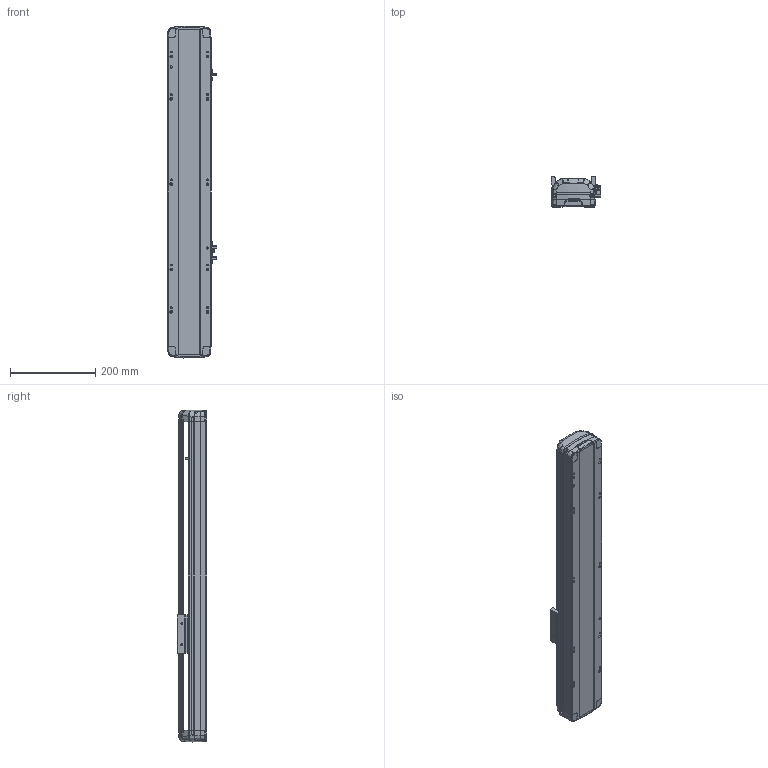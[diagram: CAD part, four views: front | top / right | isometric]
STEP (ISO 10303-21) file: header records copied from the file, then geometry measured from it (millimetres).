
FILE_DESCRIPTION (( 'STEP AP214' ), '1' );
FILE_NAME ('RTH10-XX-400-B-M10-C4.STEP', '2025-10-25T05:12:02', ( 'Microsoft' ), ( 'Microsoft' ), 'SwSTEP 2.0', 'SolidWorks 2018', '' );
FILE_SCHEMA (( 'AUTOMOTIVE_DESIGN' ));
Length unit declared in the file: millimetre
Products named in the file (7): RTH10-XX-400-B-M10-C4; N_OMRON EE-SX672 传感器^RTH10-XX-XX-B-M10-C4; N_RTH12-GY-001P^RTH10-XX-XX-B-M10-C4; N_RTH12-B-007P-奻裔^RTH10-XX-XX-B-M10-C4; N_RTH12-GY-004-賑釱^RTH10-XX-XX-B-M10-C4; N_RTH13-L-012覜茼え俋离^RTH10-XX-XX-B-M10-C4; N_RTH12-B-011P-臏倰第菁釱^RTH10-XX-XX-B-M10-C4
Assembly tree (9 placements, depth 2):
  RTH10-XX-400-B-M10-C4
    N_RTH12-B-011P-臏倰第菁釱^RTH10-XX-XX-B-M10-C4
    N_RTH13-L-012覜茼え俋离^RTH10-XX-XX-B-M10-C4
    N_OMRON EE-SX672 传感器^RTH10-XX-XX-B-M10-C4  x3
    N_RTH12-B-007P-奻裔^RTH10-XX-XX-B-M10-C4
    N_RTH12-GY-004-賑釱^RTH10-XX-XX-B-M10-C4
    N_RTH12-GY-001P^RTH10-XX-XX-B-M10-C4  x2
Bounding box: 116.5 x 70 x 779.29 mm (x, y, z)
Volume: 2952041.2 mm3; surface area: 497139 mm2
Topology: 7 solids, 11 shells, 2180 faces, 6100 edges, 3992 vertices
Faces by surface type: plane 1049, bspline 712, cylinder 399, cone 16, torus 4
Entity records: 48704 total; most frequent: CARTESIAN_POINT 21358, ORIENTED_EDGE 6328, DIRECTION 4408, EDGE_CURVE 3170, VERTEX_POINT 2079, VECTOR 1642, LINE 1642, AXIS2_PLACEMENT_3D 1383
